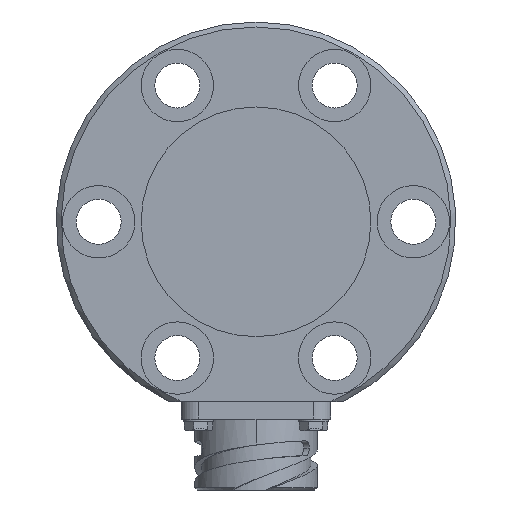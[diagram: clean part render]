
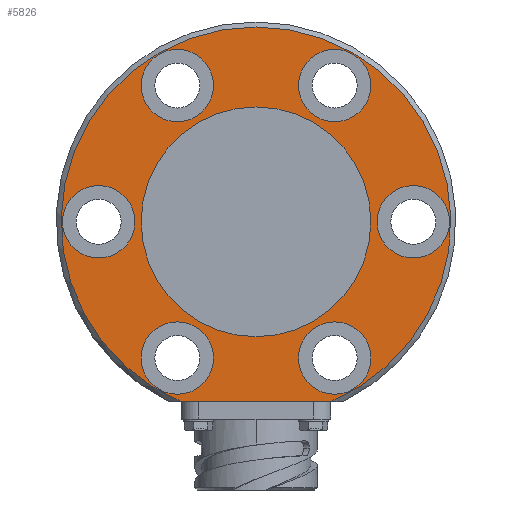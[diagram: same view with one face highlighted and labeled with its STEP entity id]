
A CAD part, left-side view. The second image highlights one B-rep face of the part: STEP entity #5826.
In plain terms, the highlighted planar face has unit normal (-1, 0, 0).
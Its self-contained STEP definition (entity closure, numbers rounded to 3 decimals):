
#978=CARTESIAN_POINT('',(0.,-15.,
-36.));
#1008=CARTESIAN_POINT('',(0.,15.,
-36.));
#1460=DIRECTION('',(0.,1.,0.));
#1461=VECTOR('',#1460,30.);
#1462=CARTESIAN_POINT('',(0.,-15.,
-36.));
#1463=LINE('',#1462,#1461);
#1464=CARTESIAN_POINT('',(0.,0.,
0.));
#1465=DIRECTION('',(1.,0.,0.));
#1466=DIRECTION('',(0.,0.385,-0.923));
#1467=AXIS2_PLACEMENT_3D('',#1464,#1465,#1466);
#1469=CARTESIAN_POINT('',(0.,0.,
0.));
#1470=DIRECTION('',(1.,0.,0.));
#1471=DIRECTION('',(0.,0.,1.));
#1472=AXIS2_PLACEMENT_3D('',#1469,#1470,#1471);
#1474=CARTESIAN_POINT('',(0.,0.,0.));
#1475=DIRECTION('',(-1.,0.,0.));
#1476=DIRECTION('',(0.,-1.,0.));
#1477=AXIS2_PLACEMENT_3D('',#1474,#1475,#1476);
#1479=CARTESIAN_POINT('',(0.,0.,0.));
#1480=DIRECTION('',(-1.,0.,0.));
#1481=DIRECTION('',(0.,1.,0.));
#1482=AXIS2_PLACEMENT_3D('',#1479,#1480,#1481);
#1484=CARTESIAN_POINT('',(0.,-15.75,27.28));
#1485=DIRECTION('',(-1.,0.,0.));
#1486=DIRECTION('',(0.,1.,0.));
#1487=AXIS2_PLACEMENT_3D('',#1484,#1485,#1486);
#1489=CARTESIAN_POINT('',(0.,-15.75,27.28));
#1490=DIRECTION('',(-1.,0.,0.));
#1491=DIRECTION('',(0.,-1.,0.));
#1492=AXIS2_PLACEMENT_3D('',#1489,#1490,#1491);
#1494=CARTESIAN_POINT('',(0.,15.75,27.28));
#1495=DIRECTION('',(-1.,0.,0.));
#1496=DIRECTION('',(0.,0.5,-0.866));
#1497=AXIS2_PLACEMENT_3D('',#1494,#1495,#1496);
#1499=CARTESIAN_POINT('',(0.,15.75,27.28));
#1500=DIRECTION('',(-1.,0.,0.));
#1501=DIRECTION('',(0.,-0.5,0.866));
#1502=AXIS2_PLACEMENT_3D('',#1499,#1500,#1501);
#1504=CARTESIAN_POINT('',(0.,31.5,0.));
#1505=DIRECTION('',(-1.,0.,0.));
#1506=DIRECTION('',(0.,-0.5,-0.866));
#1507=AXIS2_PLACEMENT_3D('',#1504,#1505,#1506);
#1509=CARTESIAN_POINT('',(0.,31.5,0.));
#1510=DIRECTION('',(-1.,0.,0.));
#1511=DIRECTION('',(0.,0.5,0.866));
#1512=AXIS2_PLACEMENT_3D('',#1509,#1510,#1511);
#1514=CARTESIAN_POINT('',(0.,15.75,-27.28));
#1515=DIRECTION('',(-1.,0.,0.));
#1516=DIRECTION('',(0.,-1.,0.));
#1517=AXIS2_PLACEMENT_3D('',#1514,#1515,#1516);
#1519=CARTESIAN_POINT('',(0.,15.75,-27.28));
#1520=DIRECTION('',(-1.,0.,0.));
#1521=DIRECTION('',(0.,1.,0.));
#1522=AXIS2_PLACEMENT_3D('',#1519,#1520,#1521);
#1524=CARTESIAN_POINT('',(0.,-15.75,-27.28));
#1525=DIRECTION('',(-1.,0.,0.));
#1526=DIRECTION('',(0.,-0.5,0.866));
#1527=AXIS2_PLACEMENT_3D('',#1524,#1525,#1526);
#1529=CARTESIAN_POINT('',(0.,-15.75,-27.28));
#1530=DIRECTION('',(-1.,0.,0.));
#1531=DIRECTION('',(0.,0.5,-0.866));
#1532=AXIS2_PLACEMENT_3D('',#1529,#1530,#1531);
#1534=CARTESIAN_POINT('',(0.,-31.5,0.));
#1535=DIRECTION('',(-1.,0.,0.));
#1536=DIRECTION('',(0.,0.5,0.866));
#1537=AXIS2_PLACEMENT_3D('',#1534,#1535,#1536);
#1539=CARTESIAN_POINT('',(0.,-31.5,0.));
#1540=DIRECTION('',(-1.,0.,0.));
#1541=DIRECTION('',(0.,-0.5,-0.866));
#1542=AXIS2_PLACEMENT_3D('',#1539,#1540,#1541);
#3481=VERTEX_POINT('',#978);
#3491=VERTEX_POINT('',#1008);
#3494=CARTESIAN_POINT('',(0.,0.,
39.));
#3495=VERTEX_POINT('',#3494);
#3612=CARTESIAN_POINT('',(0.,-8.5,27.28));
#3613=CARTESIAN_POINT('',(0.,-23.,27.28));
#3614=VERTEX_POINT('',#3612);
#3615=VERTEX_POINT('',#3613);
#3616=CARTESIAN_POINT('',(0.,-23.,0.));
#3617=CARTESIAN_POINT('',(0.,23.,0.));
#3618=VERTEX_POINT('',#3616);
#3619=VERTEX_POINT('',#3617);
#3620=CARTESIAN_POINT('',(0.,19.375,21.001));
#3621=CARTESIAN_POINT('',(0.,12.125,33.558));
#3622=VERTEX_POINT('',#3620);
#3623=VERTEX_POINT('',#3621);
#3624=CARTESIAN_POINT('',(0.,27.875,-6.279));
#3625=CARTESIAN_POINT('',(0.,35.125,6.279));
#3626=VERTEX_POINT('',#3624);
#3627=VERTEX_POINT('',#3625);
#3628=CARTESIAN_POINT('',(0.,8.5,-27.28));
#3629=CARTESIAN_POINT('',(0.,23.,-27.28));
#3630=VERTEX_POINT('',#3628);
#3631=VERTEX_POINT('',#3629);
#3632=CARTESIAN_POINT('',(0.,-19.375,-21.001));
#3633=CARTESIAN_POINT('',(0.,-12.125,-33.558));
#3634=VERTEX_POINT('',#3632);
#3635=VERTEX_POINT('',#3633);
#3636=CARTESIAN_POINT('',(0.,-27.875,6.279));
#3637=CARTESIAN_POINT('',(0.,-35.125,-6.279));
#3638=VERTEX_POINT('',#3636);
#3639=VERTEX_POINT('',#3637);
#5775=CARTESIAN_POINT('',(0.,0.,0.));
#5776=DIRECTION('',(-1.,0.,0.));
#5777=DIRECTION('',(0.,0.,-1.));
#5778=AXIS2_PLACEMENT_3D('',#5775,#5776,#5777);
#5779=PLANE('',#5778);
#5780=ORIENTED_EDGE('',*,*,#5126,.T.);
#5781=ORIENTED_EDGE('',*,*,#5153,.T.);
#5782=ORIENTED_EDGE('',*,*,#5151,.T.);
#5783=EDGE_LOOP('',(#5780,#5781,#5782));
#5784=FACE_OUTER_BOUND('',#5783,.F.);
#5786=ORIENTED_EDGE('',*,*,#5785,.T.);
#5788=ORIENTED_EDGE('',*,*,#5787,.T.);
#5789=EDGE_LOOP('',(#5786,#5788));
#5790=FACE_BOUND('',#5789,.F.);
#5791=ORIENTED_EDGE('',*,*,#5765,.T.);
#5793=ORIENTED_EDGE('',*,*,#5792,.T.);
#5794=EDGE_LOOP('',(#5791,#5793));
#5795=FACE_BOUND('',#5794,.F.);
#5797=ORIENTED_EDGE('',*,*,#5796,.T.);
#5799=ORIENTED_EDGE('',*,*,#5798,.T.);
#5800=EDGE_LOOP('',(#5797,#5799));
#5801=FACE_BOUND('',#5800,.F.);
#5803=ORIENTED_EDGE('',*,*,#5802,.T.);
#5805=ORIENTED_EDGE('',*,*,#5804,.T.);
#5806=EDGE_LOOP('',(#5803,#5805));
#5807=FACE_BOUND('',#5806,.F.);
#5809=ORIENTED_EDGE('',*,*,#5808,.T.);
#5811=ORIENTED_EDGE('',*,*,#5810,.T.);
#5812=EDGE_LOOP('',(#5809,#5811));
#5813=FACE_BOUND('',#5812,.F.);
#5815=ORIENTED_EDGE('',*,*,#5814,.T.);
#5817=ORIENTED_EDGE('',*,*,#5816,.T.);
#5818=EDGE_LOOP('',(#5815,#5817));
#5819=FACE_BOUND('',#5818,.F.);
#5821=ORIENTED_EDGE('',*,*,#5820,.T.);
#5823=ORIENTED_EDGE('',*,*,#5822,.T.);
#5824=EDGE_LOOP('',(#5821,#5823));
#5825=FACE_BOUND('',#5824,.F.);
#5826=ADVANCED_FACE('',(#5784,#5790,#5795,#5801,#5807,#5813,#5819,#5825),#5779,
.T.);
#1468=CIRCLE('',#1467,39.);
#1473=CIRCLE('',#1472,39.);
#1478=CIRCLE('',#1477,23.);
#1483=CIRCLE('',#1482,23.);
#1488=CIRCLE('',#1487,7.25);
#1493=CIRCLE('',#1492,7.25);
#1498=CIRCLE('',#1497,7.25);
#1503=CIRCLE('',#1502,7.25);
#1508=CIRCLE('',#1507,7.25);
#1513=CIRCLE('',#1512,7.25);
#1518=CIRCLE('',#1517,7.25);
#1523=CIRCLE('',#1522,7.25);
#1528=CIRCLE('',#1527,7.25);
#1533=CIRCLE('',#1532,7.25);
#1538=CIRCLE('',#1537,7.25);
#1543=CIRCLE('',#1542,7.25);
#5126=EDGE_CURVE('',#3481,#3491,#1463,.T.);
#5151=EDGE_CURVE('',#3495,#3481,#1473,.T.);
#5153=EDGE_CURVE('',#3491,#3495,#1468,.T.);
#5765=EDGE_CURVE('',#3614,#3615,#1488,.T.);
#5785=EDGE_CURVE('',#3618,#3619,#1478,.T.);
#5787=EDGE_CURVE('',#3619,#3618,#1483,.T.);
#5792=EDGE_CURVE('',#3615,#3614,#1493,.T.);
#5796=EDGE_CURVE('',#3622,#3623,#1498,.T.);
#5798=EDGE_CURVE('',#3623,#3622,#1503,.T.);
#5802=EDGE_CURVE('',#3626,#3627,#1508,.T.);
#5804=EDGE_CURVE('',#3627,#3626,#1513,.T.);
#5808=EDGE_CURVE('',#3630,#3631,#1518,.T.);
#5810=EDGE_CURVE('',#3631,#3630,#1523,.T.);
#5814=EDGE_CURVE('',#3634,#3635,#1528,.T.);
#5816=EDGE_CURVE('',#3635,#3634,#1533,.T.);
#5820=EDGE_CURVE('',#3638,#3639,#1538,.T.);
#5822=EDGE_CURVE('',#3639,#3638,#1543,.T.);
